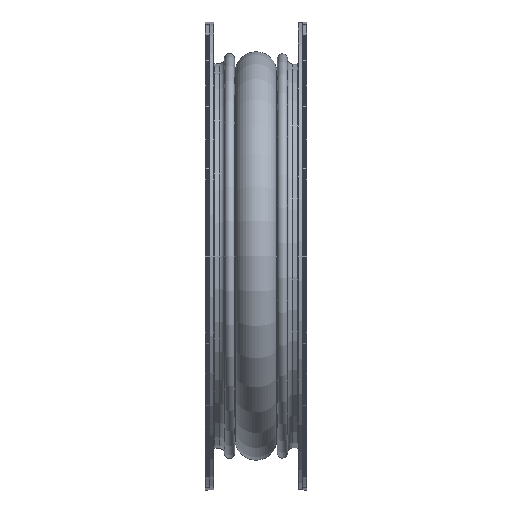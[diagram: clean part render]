
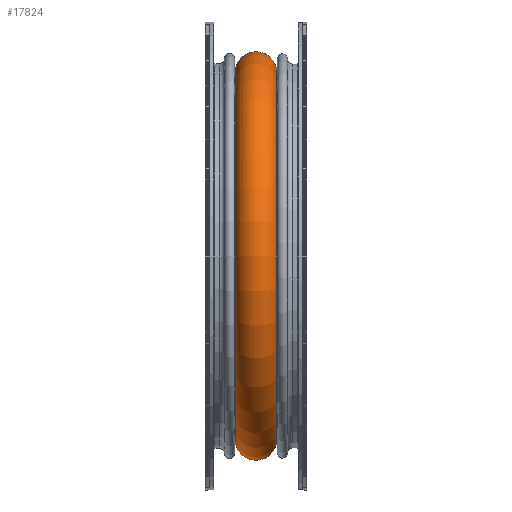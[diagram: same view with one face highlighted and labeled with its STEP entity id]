
A CAD part, front view. The second image highlights one B-rep face of the part: STEP entity #17824.
In plain terms, the highlighted toroidal (fillet/blend) face has major radius 457.2 mm and minor radius 52.483 mm.
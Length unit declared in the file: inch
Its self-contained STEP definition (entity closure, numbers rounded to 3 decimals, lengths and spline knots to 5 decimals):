
#17790=CARTESIAN_POINT('',(-1.99993,18.51929,0.0));
#17791=VERTEX_POINT('',#17790);
#17792=CARTESIAN_POINT('',(-1.99993,0.0,0.0));
#17793=DIRECTION('',(1.0,0.0,0.0));
#17794=DIRECTION('',(0.0,1.0,0.0));
#17795=AXIS2_PLACEMENT_3D('',#17792,#17793,#17794);
#17796=CIRCLE('',#17795,18.51929);
#17797=EDGE_CURVE('',#17791,#17791,#17796,.T.);
#17805=CARTESIAN_POINT('',(0.0,0.0,0.0));
#17806=DIRECTION('',(1.0,0.0,0.0));
#17807=DIRECTION('',(0.0,0.0,-1.0));
#17808=AXIS2_PLACEMENT_3D('',#17805,#17806,#17807);
#17809=TOROIDAL_SURFACE('',#17808,18.0,2.06625);
#17810=CARTESIAN_POINT('',(1.99993,18.51929,0.0));
#17811=VERTEX_POINT('',#17810);
#17812=CARTESIAN_POINT('',(1.99993,0.0,0.0));
#17813=DIRECTION('',(1.0,0.0,0.0));
#17814=DIRECTION('',(0.0,1.0,0.0));
#17815=AXIS2_PLACEMENT_3D('',#17812,#17813,#17814);
#17816=CIRCLE('',#17815,18.51929);
#17817=EDGE_CURVE('',#17811,#17811,#17816,.T.);
#17818=ORIENTED_EDGE('',*,*,#17817,.F.);
#17819=EDGE_LOOP('',(#17818));
#17820=FACE_OUTER_BOUND('',#17819,.T.);
#17821=ORIENTED_EDGE('',*,*,#17797,.T.);
#17822=EDGE_LOOP('',(#17821));
#17823=FACE_BOUND('',#17822,.T.);
#17824=ADVANCED_FACE('',(#17820,#17823),#17809,.T.);
